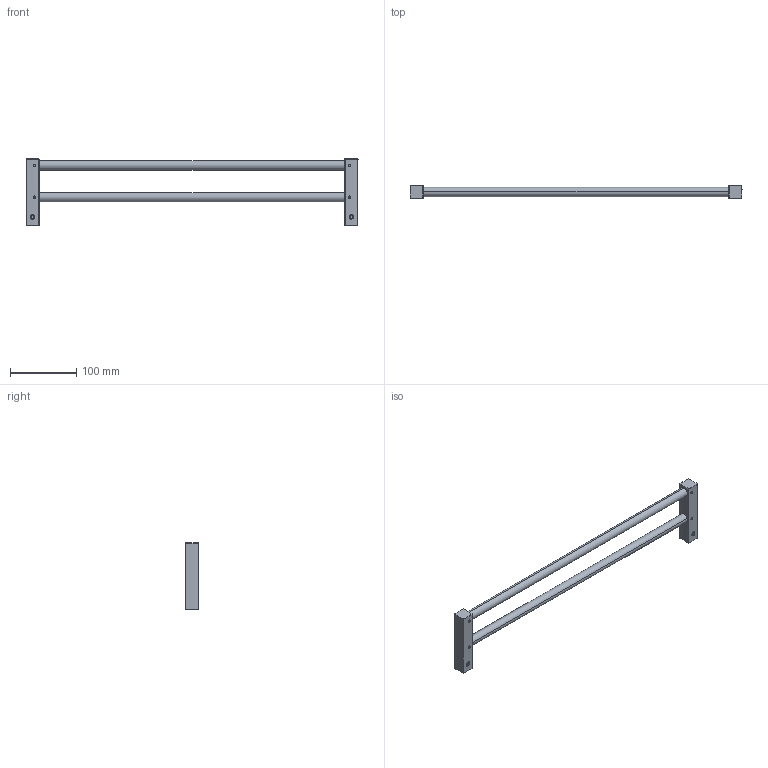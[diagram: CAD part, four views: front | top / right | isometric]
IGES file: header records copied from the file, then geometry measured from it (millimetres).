
Start section: SolidWorks IGES file using analytic representation for surfaces
Global section: file name: G:\Projects\New project\For Marketing\IGS\IGS\2015-12-4\381443002VW.IGS; native system: SolidWorks 2010; preprocessor: SolidWorks 2010; author: linda; date: 151202.151046; units: millimetre
Bounding box: 499.95 x 19.97 x 100 mm (x, y, z)
Surface area: 62563.2 mm2 (no closed solid volume)
Topology: 0 solids, 0 shells, 132 faces, 1520 edges, 1520 vertices
Faces by surface type: bspline 74, revolution 58
